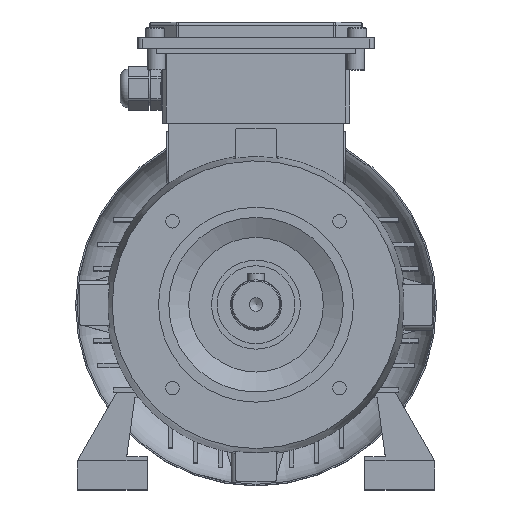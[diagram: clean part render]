
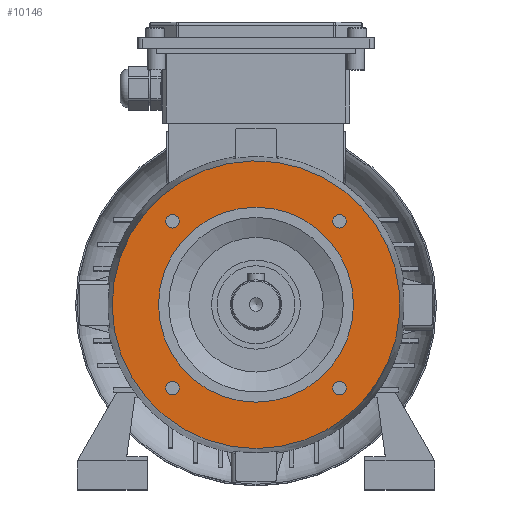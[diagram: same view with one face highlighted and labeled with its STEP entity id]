
A CAD part, top view. The second image highlights one B-rep face of the part: STEP entity #10146.
In plain terms, the highlighted planar face has unit normal (0, 0, 1).
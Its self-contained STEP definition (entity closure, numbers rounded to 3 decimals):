
#2007=FACE_BOUND('',#3384,.T.);
#2008=FACE_BOUND('',#3385,.T.);
#2009=FACE_BOUND('',#3386,.T.);
#2010=FACE_BOUND('',#3387,.T.);
#2011=FACE_BOUND('',#3388,.T.);
#2715=FACE_OUTER_BOUND('',#3383,.T.);
#3383=EDGE_LOOP('',(#8611));
#3384=EDGE_LOOP('',(#8612));
#3385=EDGE_LOOP('',(#8613));
#3386=EDGE_LOOP('',(#8614));
#3387=EDGE_LOOP('',(#8615));
#3388=EDGE_LOOP('',(#8616));
#3918=CIRCLE('',#11089,70.096);
#3919=CIRCLE('',#11090,3.324);
#3920=CIRCLE('',#11091,3.324);
#3921=CIRCLE('',#11092,3.324);
#3922=CIRCLE('',#11093,3.324);
#3923=CIRCLE('',#11094,47.5);
#4811=VERTEX_POINT('',#17268);
#4812=VERTEX_POINT('',#17270);
#4813=VERTEX_POINT('',#17272);
#4814=VERTEX_POINT('',#17274);
#4815=VERTEX_POINT('',#17276);
#4816=VERTEX_POINT('',#17278);
#6156=EDGE_CURVE('',#4811,#4811,#3918,.T.);
#6157=EDGE_CURVE('',#4812,#4812,#3919,.T.);
#6158=EDGE_CURVE('',#4813,#4813,#3920,.T.);
#6159=EDGE_CURVE('',#4814,#4814,#3921,.T.);
#6160=EDGE_CURVE('',#4815,#4815,#3922,.T.);
#6161=EDGE_CURVE('',#4816,#4816,#3923,.T.);
#8611=ORIENTED_EDGE('',*,*,#6156,.F.);
#8612=ORIENTED_EDGE('',*,*,#6157,.T.);
#8613=ORIENTED_EDGE('',*,*,#6158,.T.);
#8614=ORIENTED_EDGE('',*,*,#6159,.T.);
#8615=ORIENTED_EDGE('',*,*,#6160,.T.);
#8616=ORIENTED_EDGE('',*,*,#6161,.F.);
#9622=PLANE('',#11088);
#10146=ADVANCED_FACE('',(#2715,#2007,#2008,#2009,#2010,#2011),#9622,.T.);
#11088=AXIS2_PLACEMENT_3D('',#17267,#13581,#13582);
#11089=AXIS2_PLACEMENT_3D('',#17269,#13583,#13584);
#11090=AXIS2_PLACEMENT_3D('',#17271,#13585,#13586);
#11091=AXIS2_PLACEMENT_3D('',#17273,#13587,#13588);
#11092=AXIS2_PLACEMENT_3D('',#17275,#13589,#13590);
#11093=AXIS2_PLACEMENT_3D('',#17277,#13591,#13592);
#11094=AXIS2_PLACEMENT_3D('',#17279,#13593,#13594);
#13581=DIRECTION('center_axis',(0.,0.,1.));
#13582=DIRECTION('ref_axis',(1.,0.,0.));
#13583=DIRECTION('center_axis',(0.,0.,-1.));
#13584=DIRECTION('ref_axis',(0.,1.,0.));
#13585=DIRECTION('center_axis',(0.,0.,-1.));
#13586=DIRECTION('ref_axis',(0.,-1.,0.));
#13587=DIRECTION('center_axis',(0.,0.,-1.));
#13588=DIRECTION('ref_axis',(-1.,0.,0.));
#13589=DIRECTION('center_axis',(0.,0.,-1.));
#13590=DIRECTION('ref_axis',(0.,1.,0.));
#13591=DIRECTION('center_axis',(0.,0.,-1.));
#13592=DIRECTION('ref_axis',(1.,0.,0.));
#13593=DIRECTION('center_axis',(0.,0.,1.));
#13594=DIRECTION('ref_axis',(-1.,0.,0.));
#17267=CARTESIAN_POINT('Origin',(0.,0.,101.25));
#17268=CARTESIAN_POINT('',(0.,-70.096,101.25));
#17269=CARTESIAN_POINT('Origin',(0.,0.,101.25));
#17270=CARTESIAN_POINT('',(40.659,37.335,101.25));
#17271=CARTESIAN_POINT('Origin',(40.659,40.659,101.25));
#17272=CARTESIAN_POINT('',(37.335,-40.659,101.25));
#17273=CARTESIAN_POINT('Origin',(40.659,-40.659,101.25));
#17274=CARTESIAN_POINT('',(-40.659,-37.335,101.25));
#17275=CARTESIAN_POINT('Origin',(-40.659,-40.659,101.25));
#17276=CARTESIAN_POINT('',(-37.335,40.659,101.25));
#17277=CARTESIAN_POINT('Origin',(-40.659,40.659,101.25));
#17278=CARTESIAN_POINT('',(47.5,0.,101.25));
#17279=CARTESIAN_POINT('Origin',(0.,0.,101.25));
